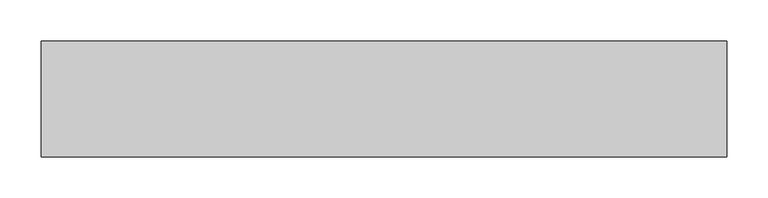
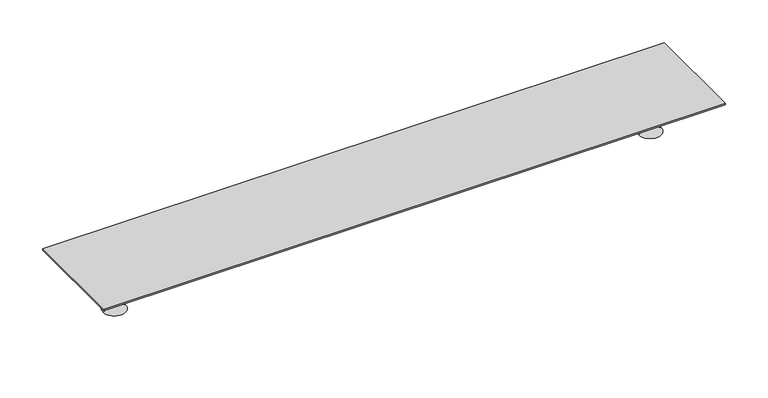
"""IFC4 building model written with IfcOpenShell, lengths in millimetres: sanitary terminal geometry, NLRS_PF_52_UN_Multi in_uitloop_Easydrain : Multi zijuitloop hoog 50mm, zij-ingang 40mm."""

from ifc_helpers import new_model, si_unit, frame, origin, place, context, project, spatial, polyline, circle_curve, outline, extrude, faceted_brep, source, transform, mapped, element, save
from ifc_brep_helpers import plane_surface, cylinder_surface, revolved_surface, advanced_brep


def sanitary_terminal_18c5c034(model_context):
    return source(origin(), model_context, "Body", "SolidModel", [
        advanced_brep(
        [(513.0, 0.0, -60.0), (507.0, 0.0, -60.0), (510.0, 0.0, -60.0), (513.0, 0.0, -71.5), (507.0, 0.0, -71.5), (525.0, 0.0, -79.0), (495.0, 0.0, -79.0), (510.0, 0.0, -79.0)],
        [
            (0, 1, circle_curve(frame((510.0, 0.0, -60.0), z_axis=(0.0, 0.0, 1.0), x_axis=(-1.0, 0.0, 0.0)), 3.0)),
            (1, 2),
            (2, 0),
            (1, 0, circle_curve(frame((510.0, 0.0, -60.0), z_axis=(0.0, 0.0, 1.0), x_axis=(-1.0, 0.0, 0.0)), 3.0)),
            (3, 4, circle_curve(frame((510.0, 0.0, -71.5), z_axis=(0.0, 0.0, 1.0), x_axis=(-1.0, 0.0, 0.0)), 3.0)),
            (4, 1),
            (0, 3),
            (4, 3, circle_curve(frame((510.0, 0.0, -71.5), z_axis=(0.0, 0.0, 1.0), x_axis=(-1.0, 0.0, 0.0)), 3.0)),
            (5, 6, circle_curve(frame((510.0, 0.0, -79.0), z_axis=(0.0, 0.0, 1.0), x_axis=(-1.0, 0.0, 0.0)), 15.0)),
            (6, 4),
            (3, 5),
            (6, 5, circle_curve(frame((510.0, 0.0, -79.0), z_axis=(0.0, 0.0, 1.0), x_axis=(-1.0, 0.0, 0.0)), 15.0)),
            (7, 6),
            (5, 7),
        ],
        [
            plane_surface(frame((510.0, 0.0, -60.0), z_axis=(0.0, 0.0, 1.0), x_axis=(-1.0, 0.0, 0.0))),
            cylinder_surface(frame((510.0, 0.0, -87.1782032), z_axis=(0.0, 0.0, -1.0), x_axis=(-1.0, 0.0, 0.0)), 3.0),
            revolved_surface(polyline([(507.0, 0.0, -71.5), (495.0, 0.0, -79.0)]), (510.0, 0.0, -87.1782032), (0.0, 0.0, -1.0)),
            plane_surface(frame((510.0, 0.0, -79.0), z_axis=(0.0, 0.0, -1.0), x_axis=(-1.0, 0.0, 0.0))),
        ],
        [
            (0, [[1, 2, 3]]),
            (0, [[4, -3, -2]]),
            (1, [[5, 6, -1, 7]]),
            (1, [[8, -7, -4, -6]]),
            (2, [[9, 10, -5, 11]]),
            (2, [[12, -11, -8, -10]]),
            (3, [[13, -9, 14]]),
            (3, [[-14, -12, -13]]),
        ],
    ),
        faceted_brep([(500.0, 10.0, -60.0), (520.0, 10.0, -60.0), (520.0, -10.0, -60.0), (500.0, -10.0, -60.0), (495.0, 15.0, -20.0), (495.0, -15.0, -20.0), (525.0, -15.0, -20.0), (525.0, 15.0, -20.0)], [[[0, 1, 2, 3]], [[4, 5, 6, 7]], [[5, 4, 0, 3]], [[6, 5, 3, 2]], [[7, 6, 2, 1]], [[4, 7, 1, 0]]]),
        advanced_brep(
        [(-207.0, 0.0, -60.0), (-213.0, 0.0, -60.0), (-210.0, 0.0, -60.0), (-207.0, 0.0, -71.5), (-213.0, 0.0, -71.5), (-195.0, 0.0, -79.0), (-225.0, 0.0, -79.0), (-210.0, 0.0, -79.0)],
        [
            (0, 1, circle_curve(frame((-210.0, 0.0, -60.0), z_axis=(0.0, 0.0, 1.0), x_axis=(-1.0, 0.0, 0.0)), 3.0)),
            (1, 2),
            (2, 0),
            (1, 0, circle_curve(frame((-210.0, 0.0, -60.0), z_axis=(0.0, 0.0, 1.0), x_axis=(-1.0, 0.0, 0.0)), 3.0)),
            (3, 4, circle_curve(frame((-210.0, 0.0, -71.5), z_axis=(0.0, 0.0, 1.0), x_axis=(-1.0, 0.0, 0.0)), 3.0)),
            (4, 1),
            (0, 3),
            (4, 3, circle_curve(frame((-210.0, 0.0, -71.5), z_axis=(0.0, 0.0, 1.0), x_axis=(-1.0, 0.0, 0.0)), 3.0)),
            (5, 6, circle_curve(frame((-210.0, 0.0, -79.0), z_axis=(0.0, 0.0, 1.0), x_axis=(-1.0, 0.0, 0.0)), 15.0)),
            (6, 4),
            (3, 5),
            (6, 5, circle_curve(frame((-210.0, 0.0, -79.0), z_axis=(0.0, 0.0, 1.0), x_axis=(-1.0, 0.0, 0.0)), 15.0)),
            (7, 6),
            (5, 7),
        ],
        [
            plane_surface(frame((-210.0, 0.0, -60.0), z_axis=(0.0, 0.0, 1.0), x_axis=(-1.0, 0.0, 0.0))),
            cylinder_surface(frame((-210.0, 0.0, -87.1782032), z_axis=(0.0, 0.0, -1.0), x_axis=(-1.0, 0.0, 0.0)), 3.0),
            revolved_surface(polyline([(-213.0, 0.0, -71.5), (-225.0, 0.0, -79.0)]), (-210.0, 0.0, -87.1782032), (0.0, 0.0, -1.0)),
            plane_surface(frame((-210.0, 0.0, -79.0), z_axis=(0.0, 0.0, -1.0), x_axis=(-1.0, 0.0, 0.0))),
        ],
        [
            (0, [[1, 2, 3]]),
            (0, [[4, -3, -2]]),
            (1, [[5, 6, -1, 7]]),
            (1, [[8, -7, -4, -6]]),
            (2, [[9, 10, -5, 11]]),
            (2, [[12, -11, -8, -10]]),
            (3, [[13, -9, 14]]),
            (3, [[-14, -12, -13]]),
        ],
    ),
        faceted_brep([(-220.0, 10.0, -60.0), (-200.0, 10.0, -60.0), (-200.0, -10.0, -60.0), (-220.0, -10.0, -60.0), (-225.0, 15.0, -20.0), (-225.0, -15.0, -20.0), (-195.0, -15.0, -20.0), (-195.0, 15.0, -20.0)], [[[0, 1, 2, 3]], [[4, 5, 6, 7]], [[5, 4, 0, 3]], [[6, 5, 3, 2]], [[7, 6, 2, 1]], [[4, 7, 1, 0]]]),
        extrude(outline(polyline([(567.5, 66.5), (567.5, -75.0), (-267.5, -75.0), (-267.5, 66.5), (567.5, 66.5)])), frame((0.0, 0.0, -16.0), z_axis=(0.0, 0.0, 1.0), x_axis=(1.0, 0.0, 0.0)), (0.0, 0.0, 1.0), 2.0),
        extrude(outline(polyline([(550.0, -47.0), (-250.0, -47.0), (-250.0, 47.0), (550.0, 47.0), (550.0, -47.0)])), frame((0.0, 0.0, -20.0), z_axis=(0.0, 0.0, 1.0), x_axis=(1.0, 0.0, 0.0)), (0.0, 0.0, 1.0), 5.0),
    ])


if __name__ == "__main__":
    model = new_model("IFC4")
    model_context = context("Model", 3, world=origin())
    ifc_project = project(units=[si_unit("LENGTHUNIT", "METRE", prefix="MILLI")], contexts=[model_context])
    site = spatial("IfcSite", under=ifc_project)
    building = spatial("IfcBuilding", under=site)
    placement = place(None, origin())
    sanitary_terminal_shape = sanitary_terminal_18c5c034(model_context)
    element("IfcSanitaryTerminal", 1, ObjectType="NLRS_PF_52_UN_Multi in_uitloop_Easydrain : Multi zijuitloop hoog 50mm, zij-ingang 40mm", at=placement, inside=building, context=model_context, shape_type="MappedRepresentation", body=[
        mapped(sanitary_terminal_shape, transform((0.0, 0.0, 0.0), x_axis=(1.0, 0.0, 0.0), y_axis=(0.0, 1.0, 0.0), z_axis=(0.0, 0.0, 1.0))),
    ])
    save(model, "model.ifc")
